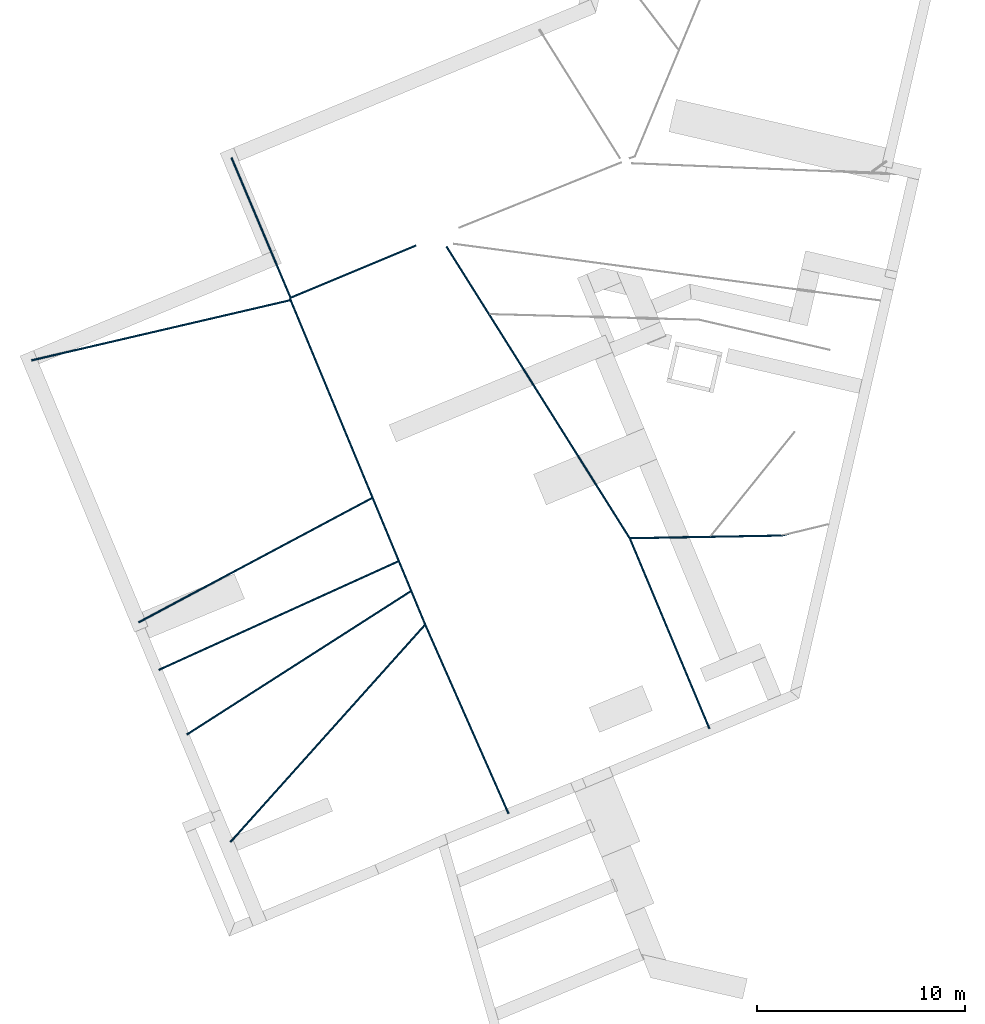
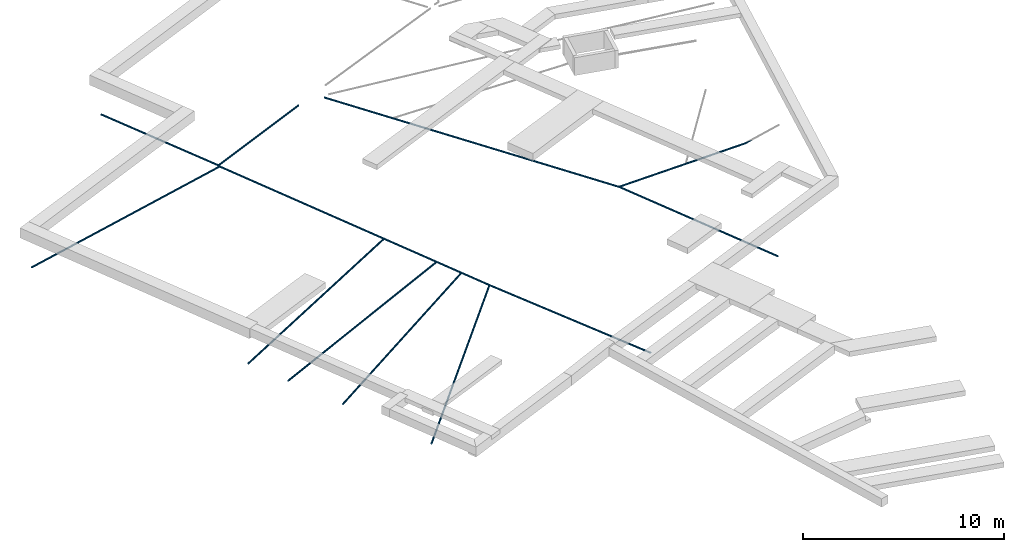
# One storey, part 1 of 6: 12 walls.
"""IFC2X3 building model written with IfcOpenShell, lengths in metres."""

from ifc_helpers import new_model, entity, si_unit, converted_unit, derived_unit, money_unit, direction, frame, origin_with_axes, place, context, subcontext, project, spatial, faceted_brep, material, type_object, element, save


model = new_model("IFC2X3")

# Units and contexts
model_context = context("Model", 3, precision=1e-05, world=origin_with_axes(), true_north=direction((0.0, 1.0)))
body_context = subcontext(model_context, "Body", "Model", "MODEL_VIEW")
ifc_project = project(units=[si_unit("LENGTHUNIT", "METRE"), si_unit("AREAUNIT", "SQUARE_METRE"), si_unit("VOLUMEUNIT", "CUBIC_METRE"), converted_unit("PLANEANGLEUNIT", "DEGREE", entity("IfcPlaneAngleMeasure", 0.0174532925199), si_unit("PLANEANGLEUNIT", "RADIAN"), dimensions=[0, 0, 0, 0, 0, 0, 0]), si_unit("SOLIDANGLEUNIT", "STERADIAN"), money_unit("EUR"), converted_unit("TIMEUNIT", "Year", entity("IfcTimeMeasure", 31556926.0), si_unit("TIMEUNIT", "SECOND"), dimensions=[0, 0, 1, 0, 0, 0, 0]), si_unit("MASSUNIT", "GRAM", prefix="KILO"), si_unit("THERMODYNAMICTEMPERATUREUNIT", "DEGREE_CELSIUS"), si_unit("LUMINOUSINTENSITYUNIT", "LUMEN"), si_unit("ENERGYUNIT", "JOULE", prefix="MEGA"), derived_unit("THERMALCONDUCTANCEUNIT", [(si_unit("POWERUNIT", "WATT"), 1), (si_unit("LENGTHUNIT", "METRE"), -1), (si_unit("THERMODYNAMICTEMPERATUREUNIT", "KELVIN"), -1)]), derived_unit("SPECIFICHEATCAPACITYUNIT", [(si_unit("ENERGYUNIT", "JOULE"), 1), (si_unit("MASSUNIT", "GRAM", prefix="KILO"), -1), (si_unit("THERMODYNAMICTEMPERATUREUNIT", "KELVIN"), -1)]), derived_unit("MASSDENSITYUNIT", [(si_unit("MASSUNIT", "GRAM", prefix="KILO"), 1), (si_unit("VOLUMEUNIT", "CUBIC_METRE"), -1)])], contexts=[model_context])

# Site, building, storey
site_placement = place(None, origin_with_axes())
site = spatial("IfcSite", under=ifc_project, at=site_placement, Name="Site", CompositionType="ELEMENT")
building_placement = place(site_placement, origin_with_axes())
building = spatial("IfcBuilding", under=site, at=building_placement, Name="Bâtiment", CompositionType="ELEMENT")
storey_placement = place(building_placement, frame((0.0, 0.0, -5.7), z_axis=(0.0, 0.0, 1.0), x_axis=(1.0, 0.0, 0.0)))
storey = spatial("IfcBuildingStorey", under=building, at=storey_placement, Name="-2. Etage", CompositionType="ELEMENT", Elevation=-5.7)

# Walls
ifc_material = material(Name="Plastique - PVC")
wall_type = type_object("IfcWallType", Name="Tuyau PVC 100 100 x 100", PredefinedType="ELEMENTEDWALL")
wall_1_placement = place(storey_placement, frame((-27.9560210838, -2.09743116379, 0.0), z_axis=(0.0, 0.0, 1.0), x_axis=(0.383112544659, -0.923701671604, 0.0)))
element("IfcWall", 1, at=wall_1_placement, inside=storey, type_object=wall_type, material=ifc_material, Name="M_Ext-026", ObjectType="ELEMENTEDWALL", context=body_context, shape_type="Brep", body=[
    faceted_brep([(17.0538505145, -0.05, 0.0), (16.9749676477, -0.0500000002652, 0.0), (16.9749257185, -0.0461939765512, -0.019134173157), (17.0478039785, -0.0461939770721, -0.0191341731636), (17.0478039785, -0.0461939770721, 0.0191341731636), (16.9749257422, -0.0461939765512, 0.019134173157), (17.0470416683, -0.0446045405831, -0.0191341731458), (17.0530253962, -0.0482796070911, 0.0), (16.9748062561, -0.0353553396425, -0.0353553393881), (17.0305848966, -0.0353553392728, -0.0353553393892), (16.9748062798, -0.0353553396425, 0.0353553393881), (17.0305848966, -0.0353553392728, 0.0353553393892), (17.0470416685, -0.0446045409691, 0.0191341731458), (17.0300014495, -0.0341388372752, -0.0353553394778), (16.9746275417, -0.0191341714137, -0.0461939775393), (17.0048147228, -0.0191341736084, -0.0461939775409), (17.03000145, -0.0341388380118, 0.0353553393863), (17.0048147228, -0.0191341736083, 0.0461939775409), (16.9746275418, -0.0191341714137, 0.0461939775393), (17.0044989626, -0.0184758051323, -0.0461939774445), (16.9744167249, 0.0, -0.05), (17.0044989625, -0.0184758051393, 0.0461939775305), (16.9744167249, 0.0, 0.05)], [[[0, 1, 2, 3]], [[4, 5, 1, 0]], [[6, 2, 1, 7]], [[3, 2, 8, 9]], [[7, 0, 3, 6]], [[10, 5, 4, 11]], [[7, 1, 5, 12]], [[12, 4, 0, 7]], [[13, 8, 2, 6]], [[14, 15, 9, 8]], [[13, 6, 3, 9]], [[16, 12, 5, 10]], [[16, 11, 4, 12]], [[10, 11, 17, 18]], [[19, 14, 8, 13]], [[20, 15, 14]], [[13, 9, 15, 19]], [[21, 16, 10, 18]], [[21, 17, 11, 16]], [[22, 18, 17]], [[14, 19, 20]], [[20, 19, 15]], [[22, 21, 18]], [[22, 17, 21]]]),
    faceted_brep([(0.0, -0.0353553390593, -0.0353553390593), (16.7976270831, -0.0353553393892, -0.0353553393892), (16.7978659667, -0.046193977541, -0.0191341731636), (0.0, -0.0461939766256, -0.0191341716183), (0.0, -0.0191341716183, -0.0461939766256), (16.7972695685, -0.0191341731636, -0.0461939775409), (16.7968909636, -0.00195609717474, -0.0496109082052), (16.7965124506, 0.0152178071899, -0.0461939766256), (16.7961550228, 0.0314350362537, -0.0353553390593), (16.7959161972, 0.0422710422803, -0.0191341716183), (16.7958323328, 0.0460761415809, 0.0), (16.7959161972, 0.0422710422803, 0.0191341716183), (16.7961550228, 0.0314350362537, 0.0353553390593), (16.7965124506, 0.0152178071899, 0.0461939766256), (16.7968909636, -0.00195609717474, 0.0496109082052), (16.7972695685, -0.0191341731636, 0.0461939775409), (16.7976270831, -0.0353553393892, 0.0353553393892), (16.7978659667, -0.046193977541, 0.0191341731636), (16.7979498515, -0.05, 0.0), (0.0, -0.05, 0.0), (0.0, 0.0191341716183, -0.0461939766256), (0.0, 0.0, -0.05), (0.0, -0.0461939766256, 0.0191341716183), (0.0, -0.0353553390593, 0.0353553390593), (0.0, -0.0191341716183, 0.0461939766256), (0.0, 0.0, 0.05), (0.0, 0.0191341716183, 0.0461939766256), (0.0, 0.0353553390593, 0.0353553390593), (0.0, 0.0461939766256, 0.0191341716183), (0.0, 0.05, 0.0), (0.0, 0.0461939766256, -0.0191341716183), (0.0, 0.0353553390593, -0.0353553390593), (16.9744167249, 0.0, -0.05), (16.9742059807, 0.0191341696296, -0.0461939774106), (16.9740271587, 0.0353553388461, -0.0353553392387), (16.9739077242, 0.0461939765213, -0.0191341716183), (16.97386579, 0.0499999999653, 0.0), (16.9739077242, 0.0461939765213, 0.0191341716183), (16.9740271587, 0.0353553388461, 0.0353553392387), (16.9742059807, 0.0191341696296, 0.0461939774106), (16.9744167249, 0.0, 0.05)], [[[0, 1, 2, 3]], [[4, 5, 1, 0]], [[2, 1, 5, 6, 7, 8, 9, 10, 11, 12, 13, 14, 15, 16, 17, 18]], [[3, 2, 18, 19]], [[20, 21, 4, 0, 3, 19, 22, 23, 24, 25, 26, 27, 28, 29, 30, 31]], [[32, 6, 5, 4, 21]], [[33, 7, 6, 32]], [[34, 8, 7, 33]], [[35, 9, 8, 34]], [[36, 10, 9, 35]], [[37, 11, 10, 36]], [[38, 12, 11, 37]], [[39, 13, 12, 38]], [[40, 14, 13, 39]], [[24, 15, 14, 40, 25]], [[23, 16, 15, 24]], [[22, 17, 16, 23]], [[19, 18, 17, 22]], [[32, 21, 20, 33]], [[39, 26, 25, 40]], [[38, 27, 26, 39]], [[37, 28, 27, 38]], [[36, 29, 28, 37]], [[35, 30, 29, 36]], [[34, 31, 30, 35]], [[33, 20, 31, 34]]]),
])
wall_2_placement = place(storey_placement, frame((-4.35104915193, -13.4997553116, 0.0), z_axis=(0.0, 0.0, 1.0), x_axis=(-0.99984318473, -0.0177089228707, 0.0)))
element("IfcWall", 2, at=wall_2_placement, inside=storey, type_object=wall_type, material=ifc_material, Name="M_Ext-034", ObjectType="ELEMENTEDWALL", context=body_context, shape_type="Brep", body=[
    faceted_brep([(-0.0050959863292, 0.0461939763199, 0.0191341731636), (7.2120636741, 0.0461939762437, 0.0191341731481), (7.20645486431, 0.0499999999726, 0.0), (-0.00551584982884, 0.05, 0.0), (-0.00390029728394, 0.0353553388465, 0.0353553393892), (7.22803621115, 0.0353553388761, 0.0353553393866), (7.24620921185, -0.05, 0.0), (7.24879190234, -0.0461939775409, 0.0191341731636), (7.21206367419, 0.0461939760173, -0.0191341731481), (-0.0050959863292, 0.0461939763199, -0.0191341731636), (-0.45323931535, -0.05, 0.0), (-0.41873853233, -0.0461939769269, 0.0191341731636), (-0.00211083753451, 0.0191341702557, 0.0461939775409), (7.25194080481, 0.0191341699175, 0.0461939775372), (7.25614677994, -0.0353553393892, 0.0353553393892), (-0.320488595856, -0.0353553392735, 0.0353553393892), (7.24879190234, -0.0461939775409, -0.0191341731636), (7.22803621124, 0.0353553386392, -0.0353553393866), (-0.00390029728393, 0.0353553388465, -0.0353553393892), (-0.41873853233, -0.0461939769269, -0.0191341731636), (0.0, 0.0, 0.05), (7.28013819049, 0.0, 0.05), (7.26715413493, -0.0191341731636, 0.0461939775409), (-0.173447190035, -0.0191341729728, 0.0461939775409), (7.25614677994, -0.0353553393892, -0.0353553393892), (7.25194080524, 0.0191341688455, -0.0461939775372), (-0.0021108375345, 0.0191341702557, -0.0461939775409), (-0.320488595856, -0.0353553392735, -0.0353553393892), (7.26715413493, -0.0191341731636, -0.0461939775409), (7.28013819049, 0.0, -0.05), (0.0, 0.0, -0.05), (-0.173447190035, -0.0191341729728, -0.0461939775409)], [[[0, 1, 2, 3]], [[4, 5, 1, 0]], [[6, 2, 1, 7]], [[3, 2, 8, 9]], [[0, 3, 10, 11]], [[12, 13, 5, 4]], [[7, 1, 5, 14]], [[4, 0, 11, 15]], [[16, 8, 2, 6]], [[10, 6, 7, 11]], [[9, 8, 17, 18]], [[3, 9, 19, 10]], [[20, 21, 13, 12]], [[14, 5, 13, 22]], [[12, 4, 15, 23]], [[11, 7, 14, 15]], [[24, 17, 8, 16]], [[19, 16, 6, 10]], [[18, 17, 25, 26]], [[9, 18, 27, 19]], [[23, 22, 21, 20]], [[22, 13, 21]], [[20, 12, 23]], [[15, 14, 22, 23]], [[28, 25, 17, 24]], [[27, 24, 16, 19]], [[26, 25, 29, 30]], [[18, 26, 31, 27]], [[28, 29, 25]], [[31, 28, 24, 27]], [[30, 29, 28, 31]], [[31, 26, 30]]]),
])
wall_3_placement = place(storey_placement, frame((-30.809711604, -28.2231878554, 0.0), z_axis=(0.0, 0.0, 1.0), x_axis=(0.667189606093, 0.744887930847, 0.0)))
element("IfcWall", 3, at=wall_3_placement, inside=storey, type_object=wall_type, material=ifc_material, Name="M_Ext-029", ObjectType="ELEMENTEDWALL", context=body_context, shape_type="Brep", body=[
    faceted_brep([(0.0, -0.0191341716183, 0.0461939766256), (13.9938050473, -0.0191341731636, 0.0461939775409), (14.0242030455, 0.0, 0.05), (0.0, 0.0, 0.05), (0.0, -0.0353553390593, 0.0353553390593), (13.9680348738, -0.0353553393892, 0.0353553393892), (14.0121589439, 0.0191341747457, 0.0461939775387), (0.0, 0.0191341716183, 0.0461939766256), (0.0, -0.0353553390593, -0.0353553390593), (0.0, -0.0461939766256, -0.0191341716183), (0.0, -0.05, 0.0), (0.0, -0.0461939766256, 0.0191341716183), (0.0, 0.0353553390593, 0.0353553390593), (0.0, 0.0461939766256, 0.0191341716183), (0.0, 0.05, 0.0), (0.0, 0.0461939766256, -0.0191341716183), (0.0, 0.0353553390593, -0.0353553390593), (0.0, 0.0191341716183, -0.0461939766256), (0.0, 0.0, -0.05), (0.0, -0.0191341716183, -0.0461939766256), (13.9508157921, -0.046193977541, 0.0191341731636), (14.0019484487, 0.03535533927, 0.0353553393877), (13.9680348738, -0.0353553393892, -0.0353553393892), (13.9508157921, -0.0461939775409, -0.0191341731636), (13.9447692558, -0.05, 0.0), (13.9951260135, 0.0461939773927, 0.0191341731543), (13.992730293, 0.05, 0.0), (13.9951260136, 0.0461939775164, -0.0191341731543), (14.0019484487, 0.0353553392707, -0.0353553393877), (14.0121589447, 0.0191341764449, -0.0461939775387), (14.0242030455, 0.0, -0.05), (13.9938050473, -0.0191341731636, -0.0461939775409)], [[[0, 1, 2, 3]], [[4, 5, 1, 0]], [[1, 6, 2]], [[3, 2, 6, 7]], [[8, 9, 10, 11, 4, 0, 3, 7, 12, 13, 14, 15, 16, 17, 18, 19]], [[11, 20, 5, 4]], [[6, 1, 5, 21]], [[7, 6, 21, 12]], [[8, 22, 23, 9]], [[9, 23, 24, 10]], [[10, 24, 20, 11]], [[12, 21, 25, 13]], [[13, 25, 26, 14]], [[14, 26, 27, 15]], [[15, 27, 28, 16]], [[16, 28, 29, 17]], [[17, 29, 30, 18]], [[18, 30, 31, 19]], [[19, 31, 22, 8]], [[21, 5, 20, 25]], [[27, 23, 22, 28]], [[26, 24, 23, 27]], [[25, 20, 24, 26]], [[28, 22, 31, 29]], [[29, 31, 30]]]),
])
wall_4_placement = place(storey_placement, frame((-21.4529090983, -17.776728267, 0.0), z_axis=(0.0, 0.0, 1.0), x_axis=(0.403372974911, -0.915035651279, 0.0)))
element("IfcWall", 4, at=wall_4_placement, inside=storey, type_object=wall_type, material=ifc_material, Name="M_Ext-030", ObjectType="ELEMENTEDWALL", context=body_context, shape_type="Brep", body=[
    faceted_brep([(-0.177525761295, -0.0152261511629, 0.0461939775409), (-0.0124626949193, -0.0188641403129, 0.0461939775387), (1.68701852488e-09, 0.0, 0.05), (-0.177525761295, 0.0019560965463, 0.0496109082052), (-0.177525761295, -0.031451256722, 0.0353553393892), (-0.0230282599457, -0.0348563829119, 0.0353553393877), (-0.000210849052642, -0.0191341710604, 0.0461939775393), (9.92003396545, 0.0191341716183, 0.0461939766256), (-0.177525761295, 0.0191341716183, 0.0461939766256), (9.92003396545, 0.0, 0.05), (-0.177525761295, -0.0422925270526, 0.0191341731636), (-0.177525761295, 0.0353553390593, 0.0353553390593), (-0.177525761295, 0.0461939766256, 0.0191341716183), (-0.177525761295, 0.05, 0.0), (-0.177525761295, 0.0461939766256, -0.0191341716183), (-0.177525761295, 0.0353553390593, -0.0353553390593), (-0.177525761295, 0.0191341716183, -0.0461939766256), (-0.177525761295, 0.0019560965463, -0.0496109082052), (-0.177525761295, -0.0152261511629, -0.0461939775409), (-0.177525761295, -0.031451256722, -0.0353553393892), (-0.177525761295, -0.0422925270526, -0.0191341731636), (-0.177525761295, -0.0460994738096, 0.0), (-0.0300878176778, -0.0455420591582, 0.0191341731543), (-0.000389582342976, -0.0353553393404, 0.0353553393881), (9.92003396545, -0.0191341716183, 0.0461939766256), (9.92003396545, 0.0353553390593, 0.0353553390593), (9.92003396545, -0.0353553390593, 0.0353553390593), (9.92003396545, -0.0461939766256, 0.0191341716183), (9.92003396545, -0.05, 0.0), (9.92003396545, -0.0461939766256, -0.0191341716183), (9.92003396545, -0.0353553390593, -0.0353553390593), (9.92003396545, -0.0191341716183, -0.0461939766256), (9.92003396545, 0.0, -0.05), (9.92003396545, 0.0191341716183, -0.0461939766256), (9.92003396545, 0.0353553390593, -0.0353553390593), (9.92003396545, 0.0461939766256, -0.0191341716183), (9.92003396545, 0.05, 0.0), (9.92003396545, 0.0461939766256, 0.0191341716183), (1.68702385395e-09, 0.0, -0.05), (-0.0124626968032, -0.0188641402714, -0.0461939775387), (-0.0230282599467, -0.0348563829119, -0.0353553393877), (-0.0300878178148, -0.0455420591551, -0.0191341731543), (-0.0325668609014, -0.049294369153, 0.0), (-0.000508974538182, -0.046193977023, 0.019134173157), (-0.000550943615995, -0.0500000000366, 0.0), (-0.000508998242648, -0.0461939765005, -0.019134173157), (-0.000389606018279, -0.0353553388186, -0.0353553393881), (-0.000210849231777, -0.0191341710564, -0.0461939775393)], [[[0, 1, 2, 3]], [[4, 5, 1, 0]], [[1, 6, 2]], [[7, 8, 3, 2, 9]], [[10, 4, 0, 3, 8, 11, 12, 13, 14, 15, 16, 17, 18, 19, 20, 21]], [[10, 22, 5, 4]], [[5, 23, 6, 1]], [[9, 2, 6, 24]], [[25, 11, 8, 7]], [[9, 24, 26, 27, 28, 29, 30, 31, 32, 33, 34, 35, 36, 37, 25, 7]], [[37, 12, 11, 25]], [[36, 13, 12, 37]], [[35, 14, 13, 36]], [[34, 15, 14, 35]], [[33, 16, 15, 34]], [[33, 32, 38, 17, 16]], [[17, 38, 39, 18]], [[18, 39, 40, 19]], [[19, 40, 41, 20]], [[20, 41, 42, 21]], [[21, 42, 22, 10]], [[22, 43, 23, 5]], [[24, 6, 23, 26]], [[26, 23, 43, 27]], [[27, 43, 44, 28]], [[28, 44, 45, 29]], [[29, 45, 46, 30]], [[30, 46, 47, 31]], [[31, 47, 38, 32]], [[39, 38, 47]], [[39, 47, 46, 40]], [[40, 46, 45, 41]], [[41, 45, 44, 42]], [[42, 44, 43, 22]]]),
])
wall_5_placement = place(storey_placement, frame((-21.8873275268, 0.42970850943, 0.0), z_axis=(0.0, 0.0, 1.0), x_axis=(-0.923156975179, -0.384423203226, 0.0)))
element("IfcWall", 5, at=wall_5_placement, inside=storey, type_object=wall_type, material=ifc_material, Name="M_Ext-023", ObjectType="ELEMENTEDWALL", context=body_context, shape_type="Brep", body=[
    faceted_brep([(0.0, -0.0191341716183, 0.0461939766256), (6.55363436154, -0.0191341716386, 0.0461939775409), (6.53441532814, 0.0, 0.05), (0.0, 0.0, 0.05), (0.0, -0.0353553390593, 0.0353553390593), (6.56992746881, -0.0353553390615, 0.0353553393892), (6.55346501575, 0.0191341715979, 0.0461939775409), (0.0, 0.0191341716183, 0.0461939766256), (0.0, -0.0461939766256, -0.0191341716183), (0.0, -0.05, 0.0), (0.0, -0.0461939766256, 0.0191341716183), (0.0, 0.0353553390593, 0.0353553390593), (0.0, 0.0461939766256, 0.0191341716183), (0.0, 0.05, 0.0), (0.0, 0.0461939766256, -0.0191341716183), (0.0, 0.0353553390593, -0.0353553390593), (0.0, 0.0191341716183, -0.0461939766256), (0.0, 0.0, -0.05), (0.0, -0.0191341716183, -0.0461939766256), (0.0, -0.0353553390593, -0.0353553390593), (6.58081417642, -0.0461939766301, 0.0191341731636), (6.56961455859, 0.0353553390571, 0.0353553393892), (6.58081417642, -0.0461939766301, -0.0191341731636), (6.58463707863, -0.05, 0.0), (6.58040533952, 0.046193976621, 0.0191341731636), (6.58419455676, 0.05, 0.0), (6.58040533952, 0.046193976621, -0.0191341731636), (6.56961455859, 0.0353553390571, -0.0353553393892), (6.55346501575, 0.0191341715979, -0.0461939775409), (6.53441532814, 0.0, -0.05), (6.55363436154, -0.0191341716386, -0.0461939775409), (6.56992746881, -0.0353553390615, -0.0353553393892)], [[[0, 1, 2, 3]], [[4, 5, 1, 0]], [[1, 6, 2]], [[3, 2, 6, 7]], [[8, 9, 10, 4, 0, 3, 7, 11, 12, 13, 14, 15, 16, 17, 18, 19]], [[10, 20, 5, 4]], [[5, 21, 6, 1]], [[7, 6, 21, 11]], [[8, 22, 23, 9]], [[9, 23, 20, 10]], [[11, 21, 24, 12]], [[12, 24, 25, 13]], [[13, 25, 26, 14]], [[14, 26, 27, 15]], [[15, 27, 28, 16]], [[16, 28, 29, 17]], [[17, 29, 30, 18]], [[18, 30, 31, 19]], [[19, 31, 22, 8]], [[20, 24, 21, 5]], [[22, 26, 25, 23]], [[23, 25, 24, 20]], [[31, 27, 26, 22]], [[30, 28, 27, 31]], [[28, 30, 29]]]),
])
wall_6_placement = place(storey_placement, frame((-30.7583354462, 4.65053524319, 0.0), z_axis=(0.0, 0.0, 1.0), x_axis=(0.388504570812, -0.921446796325, 0.0)))
element("IfcWall", 6, at=wall_6_placement, inside=storey, type_object=wall_type, material=ifc_material, Name="M_Ext-024", ObjectType="ELEMENTEDWALL", context=body_context, shape_type="Brep", body=[
    faceted_brep([(0.0, 0.0461939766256, 0.0191341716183), (7.26078845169, 0.0461939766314, 0.0191341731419), (7.25699923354, 0.05, 0.0), (0.0, 0.05, 0.0), (0.0, 0.0353553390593, 0.0353553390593), (7.27157923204, 0.0353553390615, 0.0353553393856), (7.25655671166, -0.0499999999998, 0.0), (7.26037961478, -0.0461939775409, 0.0191341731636), (7.26078845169, 0.0461939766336, -0.0191341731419), (0.0, 0.0461939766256, -0.0191341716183), (0.0, -0.0353553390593, -0.0353553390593), (0.0, -0.0461939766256, -0.0191341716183), (0.0, -0.05, 0.0), (0.0, -0.0461939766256, 0.0191341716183), (0.0, -0.0353553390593, 0.0353553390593), (0.0, -0.0191341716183, 0.0461939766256), (0.0, 0.0, 0.05), (0.0, 0.0191341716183, 0.0461939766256), (0.0, 0.0353553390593, -0.0353553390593), (0.0, 0.0191341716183, -0.0461939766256), (0.0, 0.0, -0.05), (0.0, -0.0191341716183, -0.0461939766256), (7.28772877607, 0.0191341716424, 0.0461939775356), (7.27126632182, -0.0353553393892, 0.0353553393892), (7.26037961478, -0.046193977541, -0.0191341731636), (7.27157923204, 0.0353553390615, -0.0353553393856), (7.27126632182, -0.0353553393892, -0.0353553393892), (7.28755943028, -0.0191341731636, 0.0461939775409), (7.30677846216, 0.0, 0.05), (7.28772877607, 0.0191341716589, -0.0461939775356), (7.30677846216, 0.0, -0.05), (7.28755943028, -0.0191341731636, -0.0461939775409)], [[[0, 1, 2, 3]], [[4, 5, 1, 0]], [[6, 2, 1, 7]], [[3, 2, 8, 9]], [[10, 11, 12, 13, 14, 15, 16, 17, 4, 0, 3, 9, 18, 19, 20, 21]], [[17, 22, 5, 4]], [[7, 1, 5, 23]], [[24, 8, 2, 6]], [[12, 6, 7, 13]], [[9, 8, 25, 18]], [[10, 26, 24, 11]], [[11, 24, 6, 12]], [[13, 7, 23, 14]], [[14, 23, 27, 15]], [[15, 27, 28, 16]], [[16, 28, 22, 17]], [[18, 25, 29, 19]], [[19, 29, 30, 20]], [[20, 30, 31, 21]], [[21, 31, 26, 10]], [[23, 5, 22, 27]], [[26, 25, 8, 24]], [[27, 22, 28]], [[31, 29, 25, 26]], [[31, 30, 29]]]),
])
wall_7_placement = place(storey_placement, frame((-40.3629224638, -5.09005647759, 0.0), z_axis=(0.0, 0.0, 1.0), x_axis=(0.974005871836, 0.226522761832, 0.0)))
element("IfcWall", 7, at=wall_7_placement, inside=storey, type_object=wall_type, material=ifc_material, Name="M_Ext-025", ObjectType="ELEMENTEDWALL", context=body_context, shape_type="Brep", body=[
    faceted_brep([(0.0, -0.0191341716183, 0.0461939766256), (12.7634208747, -0.0191341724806, 0.0461939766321), (12.7796380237, 0.0, 0.05), (0.0, 0.0, 0.05), (0.0, -0.0353553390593, 0.0353553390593), (12.7496726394, -0.0353553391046, 0.035355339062), (12.7570621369, 0.0191341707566, 0.04619397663), (0.0, 0.0191341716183, 0.0461939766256), (0.0, -0.0353553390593, -0.0353553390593), (0.0, -0.0461939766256, -0.0191341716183), (0.0, -0.05, 0.0), (0.0, -0.0461939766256, 0.0191341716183), (0.0, 0.0353553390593, 0.0353553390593), (0.0, 0.0461939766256, 0.0191341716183), (0.0, 0.05, 0.0), (0.0, 0.0461939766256, -0.0191341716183), (0.0, 0.0353553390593, -0.0353553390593), (0.0, 0.0191341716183, -0.0461939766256), (0.0, 0.0, -0.05), (0.0, -0.0191341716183, -0.0461939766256), (12.7404863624, -0.0461939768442, 0.0191341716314), (12.7379232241, 0.0353553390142, 0.0353553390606), (12.7496726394, -0.0353553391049, -0.035355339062), (12.7404863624, -0.0461939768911, -0.0191341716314), (12.7372605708, -0.05, 0.0), (12.7251350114, 0.0461939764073, 0.0191341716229), (12.7206443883, 0.05, 0.0), (12.7251350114, 0.0461939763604, -0.0191341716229), (12.7379232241, 0.0353553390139, -0.0353553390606), (12.757062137, 0.0191341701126, -0.04619397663), (12.7796380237, 0.0, -0.05), (12.7634208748, -0.0191341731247, -0.0461939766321)], [[[0, 1, 2, 3]], [[4, 5, 1, 0]], [[1, 6, 2]], [[3, 2, 6, 7]], [[8, 9, 10, 11, 4, 0, 3, 7, 12, 13, 14, 15, 16, 17, 18, 19]], [[11, 20, 5, 4]], [[6, 1, 5, 21]], [[7, 6, 21, 12]], [[8, 22, 23, 9]], [[9, 23, 24, 10]], [[10, 24, 20, 11]], [[12, 21, 25, 13]], [[13, 25, 26, 14]], [[14, 26, 27, 15]], [[15, 27, 28, 16]], [[16, 28, 29, 17]], [[17, 29, 30, 18]], [[18, 30, 31, 19]], [[19, 31, 22, 8]], [[21, 5, 20, 25]], [[27, 23, 22, 28]], [[26, 24, 23, 27]], [[25, 20, 24, 26]], [[28, 22, 31, 29]], [[29, 31, 30]]]),
])
wall_8_placement = place(storey_placement, frame((-34.2502426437, -19.9544080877, 0.0), z_axis=(0.0, 0.0, 1.0), x_axis=(0.910764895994, 0.412925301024, 0.0)))
element("IfcWall", 8, at=wall_8_placement, inside=storey, type_object=wall_type, material=ifc_material, Name="M_Ext-028", ObjectType="ELEMENTEDWALL", context=body_context, shape_type="Brep", body=[
    faceted_brep([(0.0, -0.0191341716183, 0.0461939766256), (12.6421349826, -0.0191341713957, 0.0461939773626), (12.6619013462, 0.0, 0.05), (0.0, 0.0, 0.05), (0.0, -0.0353553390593, 0.0353553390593), (12.6253778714, -0.0353553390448, 0.0353553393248), (12.6433791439, 0.0191341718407, 0.0461939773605), (0.0, 0.0191341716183, 0.0461939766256), (0.0, -0.0353553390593, -0.0353553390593), (0.0, -0.0461939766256, -0.0191341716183), (0.0, -0.05, 0.0), (0.0, -0.0461939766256, 0.0191341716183), (0.0, 0.0353553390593, 0.0353553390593), (0.0, 0.0461939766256, 0.0191341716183), (0.0, 0.05, 0.0), (0.0, 0.0461939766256, -0.0191341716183), (0.0, 0.0353553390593, -0.0353553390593), (0.0, 0.0191341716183, -0.0461939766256), (0.0, 0.0, -0.05), (0.0, -0.0191341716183, -0.0461939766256), (12.6141811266, -0.0461939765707, 0.0191341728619), (12.6276767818, 0.0353553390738, 0.0353553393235), (12.6253778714, -0.0353553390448, -0.0353553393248), (12.6141811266, -0.0461939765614, -0.0191341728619), (12.6102493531, -0.05, 0.0), (12.6171847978, 0.0461939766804, 0.0191341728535), (12.6135005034, 0.05, 0.0), (12.6171847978, 0.0461939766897, -0.0191341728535), (12.6276767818, 0.0353553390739, -0.0353553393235), (12.6433791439, 0.0191341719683, -0.0461939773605), (12.6619013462, 0.0, -0.05), (12.6421349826, -0.019134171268, -0.0461939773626)], [[[0, 1, 2, 3]], [[4, 5, 1, 0]], [[1, 6, 2]], [[3, 2, 6, 7]], [[8, 9, 10, 11, 4, 0, 3, 7, 12, 13, 14, 15, 16, 17, 18, 19]], [[11, 20, 5, 4]], [[6, 1, 5, 21]], [[7, 6, 21, 12]], [[8, 22, 23, 9]], [[9, 23, 24, 10]], [[10, 24, 20, 11]], [[12, 21, 25, 13]], [[13, 25, 26, 14]], [[14, 26, 27, 15]], [[15, 27, 28, 16]], [[16, 28, 29, 17]], [[17, 29, 30, 18]], [[18, 30, 31, 19]], [[19, 31, 22, 8]], [[21, 5, 20, 25]], [[27, 23, 22, 28]], [[26, 24, 23, 27]], [[25, 20, 24, 26]], [[28, 22, 31, 29]], [[29, 31, 30]]]),
])
wall_9_placement = place(storey_placement, frame((-32.9031229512, -23.0597029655, 0.0), z_axis=(0.0, 0.0, 1.0), x_axis=(0.842215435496, 0.539141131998, 0.0)))
element("IfcWall", 9, at=wall_9_placement, inside=storey, type_object=wall_type, material=ifc_material, Name="M_Ext-031", ObjectType="ELEMENTEDWALL", context=body_context, shape_type="Brep", body=[
    faceted_brep([(0.0, -0.0191341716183, 0.0461939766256), (12.7759980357, -0.0191341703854, 0.0461939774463), (12.7988411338, 0.0, 0.05), (0.0, 0.0, 0.05), (0.0, -0.0353553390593, 0.0353553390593), (12.756632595, -0.0353553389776, 0.035355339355), (12.782813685, 0.0191341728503, 0.0461939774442), (0.0, 0.0191341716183, 0.0461939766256), (0.0, -0.0353553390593, -0.0353553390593), (0.0, -0.0461939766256, -0.0191341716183), (0.0, -0.05, 0.0), (0.0, -0.0461939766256, 0.0191341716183), (0.0, 0.0353553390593, 0.0353553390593), (0.0, 0.0461939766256, 0.0191341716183), (0.0, 0.05, 0.0), (0.0, 0.0461939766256, -0.0191341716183), (0.0, 0.0353553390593, -0.0353553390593), (0.0, 0.0191341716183, -0.0461939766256), (0.0, 0.0, -0.05), (0.0, -0.0191341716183, -0.0461939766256), (12.7436930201, -0.0461939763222, 0.0191341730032), (12.7692262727, 0.0353553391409, 0.0353553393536), (12.756632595, -0.0353553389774, -0.035355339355), (12.7436930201, -0.046193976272, -0.0191341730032), (12.7391492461, -0.05, 0.0), (12.7601474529, 0.0461939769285, 0.0191341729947), (12.7569593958, 0.05, 0.0), (12.7601474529, 0.0461939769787, -0.0191341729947), (12.7692262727, 0.0353553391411, -0.0353553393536), (12.7828136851, 0.0191341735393, -0.0461939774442), (12.7988411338, 0.0, -0.05), (12.7759980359, -0.0191341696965, -0.0461939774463)], [[[0, 1, 2, 3]], [[4, 5, 1, 0]], [[1, 6, 2]], [[3, 2, 6, 7]], [[8, 9, 10, 11, 4, 0, 3, 7, 12, 13, 14, 15, 16, 17, 18, 19]], [[11, 20, 5, 4]], [[6, 1, 5, 21]], [[7, 6, 21, 12]], [[8, 22, 23, 9]], [[9, 23, 24, 10]], [[10, 24, 20, 11]], [[12, 21, 25, 13]], [[13, 25, 26, 14]], [[14, 26, 27, 15]], [[15, 27, 28, 16]], [[16, 28, 29, 17]], [[17, 29, 30, 18]], [[18, 30, 31, 19]], [[19, 31, 22, 8]], [[21, 5, 20, 25]], [[27, 23, 22, 28]], [[26, 24, 23, 27]], [[25, 20, 24, 26]], [[28, 22, 31, 29]], [[29, 31, 30]]]),
])
wall_10_placement = place(storey_placement, frame((-7.80398159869, -22.7775692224, 0.0), z_axis=(0.0, 0.0, 1.0), x_axis=(-0.38582024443, 0.922573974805, 0.0)))
element("IfcWall", 10, at=wall_10_placement, inside=storey, type_object=wall_type, material=ifc_material, Name="M_Ext-032", ObjectType="ELEMENTEDWALL", context=body_context, shape_type="Brep", body=[
    faceted_brep([(0.0, -0.0461939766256, -0.0191341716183), (9.94804755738, -0.0461939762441, -0.0191341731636), (9.95063024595, -0.05, 0.0), (0.0, -0.05, 0.0), (0.0, -0.0353553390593, -0.0353553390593), (9.94069267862, -0.035355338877, -0.0353553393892), (9.99038459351, 0.05, 0.0), (9.98477578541, 0.046193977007, -0.0191341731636), (9.94804755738, -0.0461939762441, 0.0191341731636), (0.0, -0.0461939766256, 0.0191341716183), (0.0, -0.0353553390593, 0.0353553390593), (0.0, -0.0191341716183, 0.0461939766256), (0.0, 0.0, 0.05), (0.0, 0.0191341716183, 0.0461939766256), (0.0, 0.0353553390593, 0.0353553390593), (0.0, 0.0461939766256, 0.0191341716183), (0.0, 0.05, 0.0), (0.0, 0.0461939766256, -0.0191341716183), (0.0, 0.0353553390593, -0.0353553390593), (0.0, 0.0191341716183, -0.0461939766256), (0.0, 0.0, -0.05), (0.0, -0.0191341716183, -0.0461939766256), (9.92968532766, -0.0191341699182, -0.0461939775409), (9.96880324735, 0.0353553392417, -0.0353553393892), (9.98477578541, 0.046193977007, 0.0191341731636), (9.94069267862, -0.035355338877, 0.0353553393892), (9.92968532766, -0.0191341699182, 0.0461939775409), (9.91670126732, 0.0, 0.05), (9.94489865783, 0.0191341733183, 0.0461939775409), (9.96880324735, 0.0353553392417, 0.0353553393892), (9.94489865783, 0.0191341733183, -0.0461939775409), (9.91670126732, 0.0, -0.05)], [[[0, 1, 2, 3]], [[4, 5, 1, 0]], [[6, 2, 1, 7]], [[3, 2, 8, 9]], [[0, 3, 9, 10, 11, 12, 13, 14, 15, 16, 17, 18, 19, 20, 21, 4]], [[21, 22, 5, 4]], [[7, 1, 5, 23]], [[24, 8, 2, 6]], [[16, 6, 7, 17]], [[9, 8, 25, 10]], [[10, 25, 26, 11]], [[11, 26, 27, 12]], [[12, 27, 28, 13]], [[13, 28, 29, 14]], [[14, 29, 24, 15]], [[15, 24, 6, 16]], [[17, 7, 23, 18]], [[18, 23, 30, 19]], [[19, 30, 31, 20]], [[20, 31, 22, 21]], [[23, 5, 22, 30]], [[29, 25, 8, 24]], [[28, 26, 25, 29]], [[28, 27, 26]], [[30, 22, 31]]]),
])
wall_11_placement = place(storey_placement, frame((-11.6346424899, -13.6287601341, 0.0), z_axis=(0.0, 0.0, 1.0), x_axis=(-0.531872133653, 0.846824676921, 0.0)))
element("IfcWall", 11, at=wall_11_placement, inside=storey, type_object=wall_type, material=ifc_material, Name="M_Ext-033", ObjectType="ELEMENTEDWALL", context=body_context, shape_type="Brep", body=[
    faceted_brep([(0.0, -0.0461939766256, 0.0191341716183), (16.5457301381, -0.0461939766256, 0.0191341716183), (16.5457301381, -0.0353553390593, 0.0353553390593), (0.0, -0.0353553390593, 0.0353553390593), (0.0, -0.05, 0.0), (16.5457301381, -0.05, 0.0), (16.5457301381, -0.0461939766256, -0.0191341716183), (16.5457301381, -0.0353553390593, -0.0353553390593), (16.5457301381, -0.0191341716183, -0.0461939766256), (16.5457301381, 0.0, -0.05), (16.5457301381, 0.0191341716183, -0.0461939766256), (16.5457301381, 0.0353553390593, -0.0353553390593), (16.5457301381, 0.0461939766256, -0.0191341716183), (16.5457301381, 0.05, 0.0), (16.5457301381, 0.0461939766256, 0.0191341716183), (16.5457301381, 0.0353553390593, 0.0353553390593), (16.5457301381, 0.0191341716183, 0.0461939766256), (16.5457301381, 0.0, 0.05), (16.5457301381, -0.0191341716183, 0.0461939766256), (0.0, -0.0191341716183, 0.0461939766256), (0.0, 0.0, 0.05), (0.0, 0.0191341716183, 0.0461939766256), (0.0, 0.0353553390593, 0.0353553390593), (0.0, 0.0461939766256, 0.0191341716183), (0.0, 0.05, 0.0), (0.0, 0.0461939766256, -0.0191341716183), (0.0, 0.0353553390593, -0.0353553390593), (0.0, 0.0191341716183, -0.0461939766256), (0.0, 0.0, -0.05), (0.0, -0.0191341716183, -0.0461939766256), (0.0, -0.0353553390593, -0.0353553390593), (0.0, -0.0461939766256, -0.0191341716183)], [[[0, 1, 2, 3]], [[4, 5, 1, 0]], [[2, 1, 5, 6, 7, 8, 9, 10, 11, 12, 13, 14, 15, 16, 17, 18]], [[3, 2, 18, 19]], [[4, 0, 3, 19, 20, 21, 22, 23, 24, 25, 26, 27, 28, 29, 30, 31]], [[31, 6, 5, 4]], [[30, 7, 6, 31]], [[29, 8, 7, 30]], [[28, 9, 8, 29]], [[27, 10, 9, 28]], [[26, 11, 10, 27]], [[25, 12, 11, 26]], [[24, 13, 12, 25]], [[23, 14, 13, 24]], [[22, 15, 14, 23]], [[21, 16, 15, 22]], [[20, 17, 16, 21]], [[19, 18, 17, 20]]]),
])
wall_12_placement = place(storey_placement, frame((-35.2178865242, -17.6713749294, 0.0), z_axis=(0.0, 0.0, 1.0), x_axis=(0.882593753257, 0.470136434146, 0.0)))
element("IfcWall", 12, at=wall_12_placement, inside=storey, type_object=wall_type, material=ifc_material, Name="M_Ext-027", ObjectType="ELEMENTEDWALL", context=body_context, shape_type="Brep", body=[
    faceted_brep([(0.0, -0.0461939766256, 0.0191341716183), (12.6831124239, -0.0461939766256, 0.0191341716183), (12.6831124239, -0.0353553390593, 0.0353553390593), (0.0, -0.0353553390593, 0.0353553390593), (0.0, -0.05, 0.0), (12.6831124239, -0.05, 0.0), (12.6831124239, -0.0461939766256, -0.0191341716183), (12.6831124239, -0.0353553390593, -0.0353553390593), (12.6831124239, -0.0191341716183, -0.0461939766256), (12.6831124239, 0.0, -0.05), (12.6831124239, 0.0191341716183, -0.0461939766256), (12.6831124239, 0.0353553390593, -0.0353553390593), (12.6831124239, 0.0461939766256, -0.0191341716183), (12.6831124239, 0.05, 0.0), (12.6831124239, 0.0461939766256, 0.0191341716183), (12.6831124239, 0.0353553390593, 0.0353553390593), (12.6831124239, 0.0191341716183, 0.0461939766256), (12.6831124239, 0.0, 0.05), (12.6831124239, -0.0191341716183, 0.0461939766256), (0.0, -0.0191341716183, 0.0461939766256), (0.0, 0.0, 0.05), (0.0, 0.0191341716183, 0.0461939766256), (0.0, 0.0353553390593, 0.0353553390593), (0.0, 0.0461939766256, 0.0191341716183), (0.0, 0.05, 0.0), (0.0, 0.0461939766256, -0.0191341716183), (0.0, 0.0353553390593, -0.0353553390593), (0.0, 0.0191341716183, -0.0461939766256), (0.0, 0.0, -0.05), (0.0, -0.0191341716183, -0.0461939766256), (0.0, -0.0353553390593, -0.0353553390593), (0.0, -0.0461939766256, -0.0191341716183)], [[[0, 1, 2, 3]], [[4, 5, 1, 0]], [[2, 1, 5, 6, 7, 8, 9, 10, 11, 12, 13, 14, 15, 16, 17, 18]], [[3, 2, 18, 19]], [[4, 0, 3, 19, 20, 21, 22, 23, 24, 25, 26, 27, 28, 29, 30, 31]], [[31, 6, 5, 4]], [[30, 7, 6, 31]], [[29, 8, 7, 30]], [[28, 9, 8, 29]], [[27, 10, 9, 28]], [[26, 11, 10, 27]], [[25, 12, 11, 26]], [[24, 13, 12, 25]], [[23, 14, 13, 24]], [[22, 15, 14, 23]], [[21, 16, 15, 22]], [[20, 17, 16, 21]], [[19, 18, 17, 20]]]),
])

save(model, "model.ifc")
